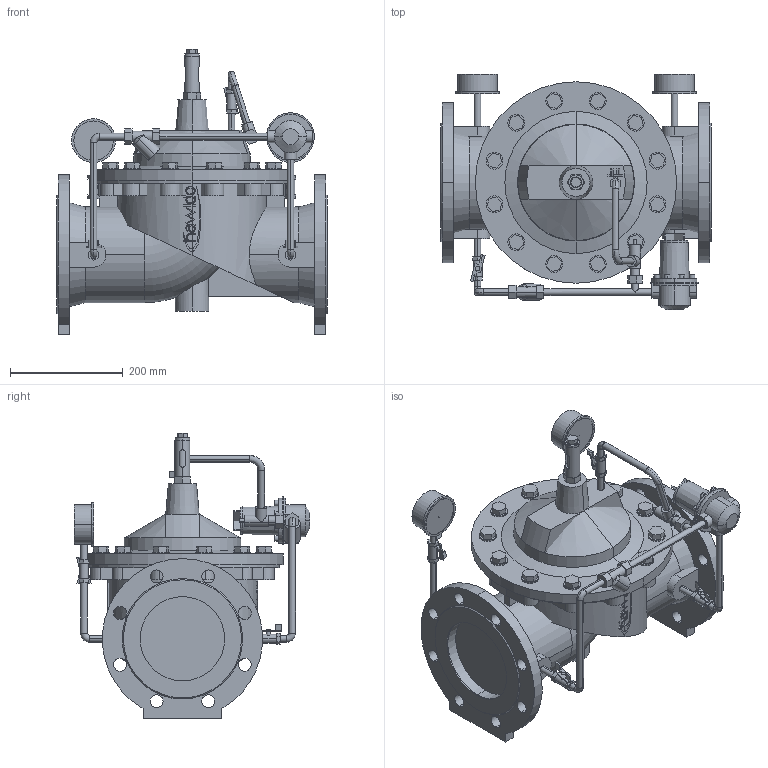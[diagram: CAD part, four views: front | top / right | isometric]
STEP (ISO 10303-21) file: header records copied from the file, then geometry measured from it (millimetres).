
FILE_DESCRIPTION(('STEP AP214'),'1');
FILE_NAME('S:/EK/USER/CAT6/3DHomepage_27-04-2012/CH-Produkte/1500/1500_PN16_DN150.STP','2013-01-18T08:41:43',(' '),(' '),'Spatial InterOp 3D',' ',' ');
FILE_SCHEMA(('automotive_design'));
Length unit declared in the file: millimetre
Products named in the file (187): 3D-Objekt
Bounding box: 480 x 419 x 508.3 mm (x, y, z)
Volume: 22544429.6 mm3; surface area: 1685513 mm2
Topology: 187 solids, 187 shells, 1341 faces, 2899 edges, 1934 vertices
Faces by surface type: plane 923, cylinder 375, cone 23, torus 16, bspline 4
Entity records: 53615 total; most frequent: CARTESIAN_POINT 8425, DIRECTION 6764, ORIENTED_EDGE 5798, EDGE_CURVE 2899, AXIS2_PLACEMENT_3D 2375, LINE 2014, VECTOR 2014, VERTEX_POINT 1934
